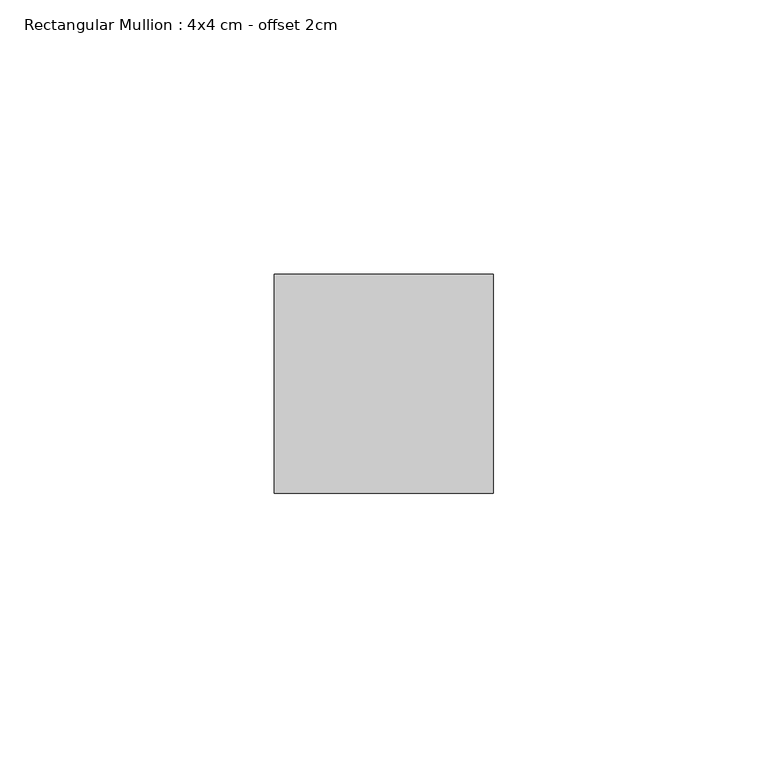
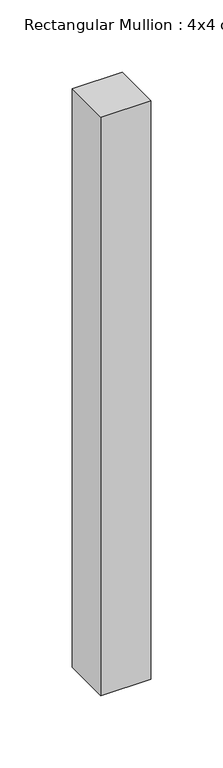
"""IFC4 building model written with IfcOpenShell, lengths in millimetres: member geometry, Rectangular Mullion : 4x4 cm - offset 2cm."""

from ifc_helpers import new_model, si_unit, frame, origin, place, context, project, spatial, polyline, outline, extrude, source, transform, mapped, element, save


def rectangular_mullion_4x4_cm_offset_2cm_ab246246(model_context):
    return source(origin(), model_context, "Body", "SweptSolid", [
        extrude(outline(polyline([(0.0, 40.0), (0.0, 0.0), (-40.0, 0.0), (-40.0, 40.0), (0.0, 40.0)])), frame((0.0, 0.0, -489.9999997), z_axis=(0.0, 0.0, 1.0), x_axis=(1.0, 0.0, 0.0)), (0.0, 0.0, 1.0), 489.9999997),
    ])


if __name__ == "__main__":
    model = new_model("IFC4")
    model_context = context("Model", 3, world=origin())
    ifc_project = project(units=[si_unit("LENGTHUNIT", "METRE", prefix="MILLI")], contexts=[model_context])
    site = spatial("IfcSite", under=ifc_project)
    building = spatial("IfcBuilding", under=site)
    placement = place(None, origin())
    rectangular_mullion_4x4_cm_offset_2cm_shape = rectangular_mullion_4x4_cm_offset_2cm_ab246246(model_context)
    element("IfcMember", 1, ObjectType="Rectangular Mullion : 4x4 cm - offset 2cm", at=placement, inside=building, context=model_context, shape_type="MappedRepresentation", body=[
        mapped(rectangular_mullion_4x4_cm_offset_2cm_shape, transform((0.0, 0.0, 0.0), x_axis=(1.0, 0.0, 0.0), y_axis=(0.0, 1.0, 0.0), z_axis=(0.0, 0.0, 1.0))),
    ])
    save(model, "model.ifc")
